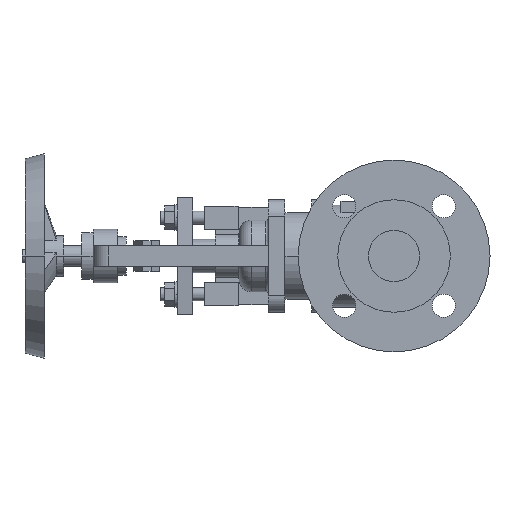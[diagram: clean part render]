
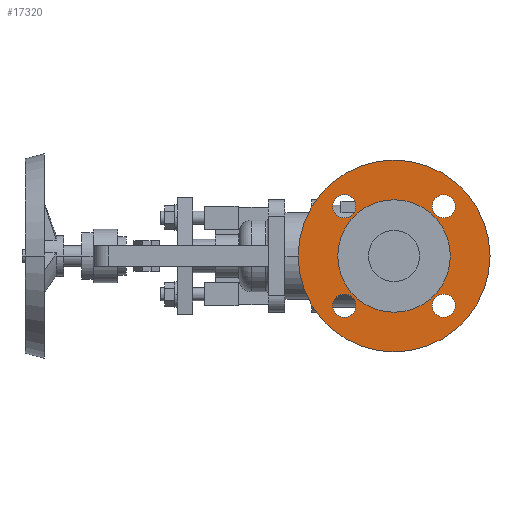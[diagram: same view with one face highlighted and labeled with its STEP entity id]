
A CAD part, left-side view. The second image highlights one B-rep face of the part: STEP entity #17320.
In plain terms, the highlighted planar face has unit normal (-1, 0, 0).
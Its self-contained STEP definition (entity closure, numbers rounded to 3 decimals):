
#8380=CARTESIAN_POINT('',(3.,0.,-75.));
#8390=VERTEX_POINT('',#8380);
#8550=CARTESIAN_POINT('',(3.,0.,75.));
#8560=VERTEX_POINT('',#8550);
#8590=CARTESIAN_POINT('',(3.,0.,0.));
#8600=DIRECTION('',(1.,0.,0.));
#8610=DIRECTION('',(0.,0.,-1.));
#8620=AXIS2_PLACEMENT_3D('',#8590,#8600,#8610);
#8630=CIRCLE('',#8620,75.);
#8640=EDGE_CURVE('',#8390,#8560,#8630,.T.);
#8870=CARTESIAN_POINT('',(3.,38.891,-29.891));
#8880=VERTEX_POINT('',#8870);
#9040=CARTESIAN_POINT('',(3.,38.891,-47.891));
#9050=VERTEX_POINT('',#9040);
#9080=CARTESIAN_POINT('',(3.,38.891,-38.891));
#9090=DIRECTION('',(-1.,0.,0.));
#9100=DIRECTION('',(0.,0.,-1.));
#9110=AXIS2_PLACEMENT_3D('',#9080,#9090,#9100);
#9120=CIRCLE('',#9110,9.);
#9130=EDGE_CURVE('',#8880,#9050,#9120,.T.);
#9360=CARTESIAN_POINT('',(3.,-38.891,-47.891));
#9370=VERTEX_POINT('',#9360);
#9400=CARTESIAN_POINT('',(3.,-38.891,-38.891));
#9410=DIRECTION('',(-1.,0.,0.));
#9420=DIRECTION('',(0.,0.,-1.));
#9430=AXIS2_PLACEMENT_3D('',#9400,#9410,#9420);
#9440=CIRCLE('',#9430,9.);
#9450=CARTESIAN_POINT('',(3.,-38.891,-29.891));
#9460=VERTEX_POINT('',#9450);
#9470=EDGE_CURVE('',#9460,#9370,#9440,.T.);
#9850=CARTESIAN_POINT('',(3.,38.891,29.891));
#9860=VERTEX_POINT('',#9850);
#9890=CARTESIAN_POINT('',(3.,38.891,38.891));
#9900=DIRECTION('',(-1.,0.,0.));
#9910=DIRECTION('',(0.,0.,-1.));
#9920=AXIS2_PLACEMENT_3D('',#9890,#9900,#9910);
#9930=CIRCLE('',#9920,9.);
#9940=CARTESIAN_POINT('',(3.,38.891,47.891));
#9950=VERTEX_POINT('',#9940);
#9960=EDGE_CURVE('',#9950,#9860,#9930,.T.);
#10340=CARTESIAN_POINT('',(3.,-38.891,29.891));
#10350=VERTEX_POINT('',#10340);
#10510=CARTESIAN_POINT('',(3.,-38.891,47.891));
#10520=VERTEX_POINT('',#10510);
#10550=CARTESIAN_POINT('',(3.,-38.891,38.891));
#10560=DIRECTION('',(-1.,0.,0.));
#10570=DIRECTION('',(0.,0.,-1.));
#10580=AXIS2_PLACEMENT_3D('',#10550,#10560,#10570);
#10590=CIRCLE('',#10580,9.);
#10600=EDGE_CURVE('',#10350,#10520,#10590,.T.);
#10830=CARTESIAN_POINT('',(3.,-44.,0.));
#10840=VERTEX_POINT('',#10830);
#11000=CARTESIAN_POINT('',(3.,44.,0.));
#11010=VERTEX_POINT('',#11000);
#11040=CARTESIAN_POINT('',(3.,0.,0.));
#11050=DIRECTION('',(-1.,0.,0.));
#11060=DIRECTION('',(0.,1.,0.));
#11070=AXIS2_PLACEMENT_3D('',#11040,#11050,#11060);
#11080=CIRCLE('',#11070,44.);
#11090=EDGE_CURVE('',#10840,#11010,#11080,.T.);
#16970=CARTESIAN_POINT('',(3.,59.5,0.));
#16980=DIRECTION('',(1.,0.,0.));
#16990=DIRECTION('',(0.,-1.,0.));
#17000=AXIS2_PLACEMENT_3D('',#16970,#16980,#16990);
#17010=PLANE('',#17000);
#17020=EDGE_CURVE('',#11010,#10840,#11080,.T.);
#17030=ORIENTED_EDGE('',*,*,#17020,.F.);
#17040=ORIENTED_EDGE('',*,*,#11090,.F.);
#17050=EDGE_LOOP('',(#17040,#17030));
#17060=FACE_BOUND('',#17050,.T.);
#17070=EDGE_CURVE('',#8560,#8390,#8630,.T.);
#17080=ORIENTED_EDGE('',*,*,#17070,.F.);
#17090=ORIENTED_EDGE('',*,*,#8640,.F.);
#17100=EDGE_LOOP('',(#17090,#17080));
#17110=FACE_OUTER_BOUND('',#17100,.T.);
#17120=EDGE_CURVE('',#9050,#8880,#9120,.T.);
#17130=ORIENTED_EDGE('',*,*,#17120,.F.);
#17140=ORIENTED_EDGE('',*,*,#9130,.F.);
#17150=EDGE_LOOP('',(#17140,#17130));
#17160=FACE_BOUND('',#17150,.T.);
#17170=EDGE_CURVE('',#9370,#9460,#9440,.T.);
#17180=ORIENTED_EDGE('',*,*,#17170,.F.);
#17190=ORIENTED_EDGE('',*,*,#9470,.F.);
#17200=EDGE_LOOP('',(#17190,#17180));
#17210=FACE_BOUND('',#17200,.T.);
#17220=ORIENTED_EDGE('',*,*,#9960,.F.);
#17230=EDGE_CURVE('',#9860,#9950,#9930,.T.);
#17240=ORIENTED_EDGE('',*,*,#17230,.F.);
#17250=EDGE_LOOP('',(#17240,#17220));
#17260=FACE_BOUND('',#17250,.T.);
#17270=EDGE_CURVE('',#10520,#10350,#10590,.T.);
#17280=ORIENTED_EDGE('',*,*,#17270,.F.);
#17290=ORIENTED_EDGE('',*,*,#10600,.F.);
#17300=EDGE_LOOP('',(#17290,#17280));
#17310=FACE_BOUND('',#17300,.T.);
#17320=ADVANCED_FACE('',(#17060,#17110,#17160,#17210,#17260,#17310),
#17010,.F.);
